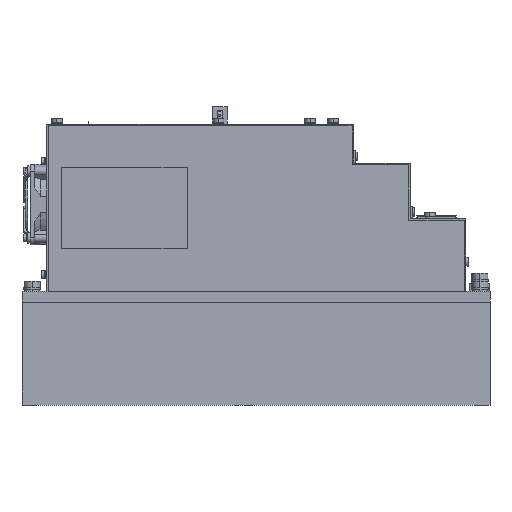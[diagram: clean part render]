
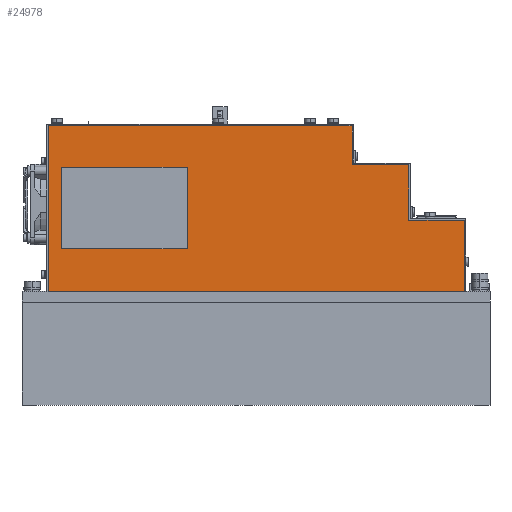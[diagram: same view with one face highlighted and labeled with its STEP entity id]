
A CAD part, left-side view. The second image highlights one B-rep face of the part: STEP entity #24978.
In plain terms, the highlighted planar face has unit normal (-1, 0, 0).
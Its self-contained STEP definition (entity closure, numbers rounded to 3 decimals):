
#24927 = ORIENTED_EDGE ( 'NONE', *, *, #25026, .F. ) ;
#24928 = EDGE_LOOP ( 'NONE', ( #24931, #24937, #24943, #24948, #24953, #25055, #25060, #25066 ) ) ;
#24931 = ORIENTED_EDGE ( 'NONE', *, *, #24933, .F. ) ;
#24933 = EDGE_CURVE ( 'NONE', #24935, #24936, #78304, .T. ) ;
#24935 = VERTEX_POINT ( 'NONE', #78300 ) ;
#24936 = VERTEX_POINT ( 'NONE', #78299 ) ;
#24937 = ORIENTED_EDGE ( 'NONE', *, *, #24939, .F. ) ;
#24939 = EDGE_CURVE ( 'NONE', #24941, #24935, #78298, .T. ) ;
#24941 = VERTEX_POINT ( 'NONE', #78294 ) ;
#24943 = ORIENTED_EDGE ( 'NONE', *, *, #24946, .F. ) ;
#24946 = EDGE_CURVE ( 'NONE', #24947, #24941, #78293, .T. ) ;
#24947 = VERTEX_POINT ( 'NONE', #78289 ) ;
#24948 = ORIENTED_EDGE ( 'NONE', *, *, #24950, .T. ) ;
#24950 = EDGE_CURVE ( 'NONE', #24947, #24951, #78288, .T. ) ;
#24951 = VERTEX_POINT ( 'NONE', #78347 ) ;
#24953 = ORIENTED_EDGE ( 'NONE', *, *, #25053, .T. ) ;
#24978 = ADVANCED_FACE ( 'NONE', ( #78324, #78323 ), #78322, .F. ) ;
#25026 = EDGE_CURVE ( 'NONE', #25029, #25075, #78405, .T. ) ;
#25029 = VERTEX_POINT ( 'NONE', #78401 ) ;
#25030 = ORIENTED_EDGE ( 'NONE', *, *, #25031, .F. ) ;
#25031 = EDGE_CURVE ( 'NONE', #25032, #25029, #78400, .T. ) ;
#25032 = VERTEX_POINT ( 'NONE', #78396 ) ;
#25034 = ORIENTED_EDGE ( 'NONE', *, *, #25035, .F. ) ;
#25035 = EDGE_CURVE ( 'NONE', #25076, #25032, #78395, .T. ) ;
#25053 = EDGE_CURVE ( 'NONE', #24951, #25054, #78435, .T. ) ;
#25054 = VERTEX_POINT ( 'NONE', #78431 ) ;
#25055 = ORIENTED_EDGE ( 'NONE', *, *, #25056, .T. ) ;
#25056 = EDGE_CURVE ( 'NONE', #25054, #25058, #78430, .T. ) ;
#25058 = VERTEX_POINT ( 'NONE', #78426 ) ;
#25060 = ORIENTED_EDGE ( 'NONE', *, *, #25063, .T. ) ;
#25063 = EDGE_CURVE ( 'NONE', #25058, #25065, #78425, .T. ) ;
#25065 = VERTEX_POINT ( 'NONE', #78421 ) ;
#25066 = ORIENTED_EDGE ( 'NONE', *, *, #25067, .T. ) ;
#25067 = EDGE_CURVE ( 'NONE', #25065, #24936, #78420, .T. ) ;
#25069 = EDGE_LOOP ( 'NONE', ( #25071, #24927, #25030, #25034 ) ) ;
#25071 = ORIENTED_EDGE ( 'NONE', *, *, #25073, .F. ) ;
#25073 = EDGE_CURVE ( 'NONE', #25075, #25076, #78416, .T. ) ;
#25075 = VERTEX_POINT ( 'NONE', #78475 ) ;
#25076 = VERTEX_POINT ( 'NONE', #78474 ) ;
#78287 = CARTESIAN_POINT ( 'NONE',  ( -25., -323.5, 85. ) ) ;
#78288 = LINE ( 'NONE', #78287, #78349 ) ;
#78289 = CARTESIAN_POINT ( 'NONE',  ( -25., -323.5, 85.2 ) ) ;
#78290 = DIRECTION ( 'NONE',  ( 0., 1., 0. ) ) ;
#78291 = VECTOR ( 'NONE', #78290, 1000. ) ;
#78292 = CARTESIAN_POINT ( 'NONE',  ( -25., -324.5, 85.2 ) ) ;
#78293 = LINE ( 'NONE', #78292, #78291 ) ;
#78294 = CARTESIAN_POINT ( 'NONE',  ( -25., -12.1, 85.2 ) ) ;
#78295 = DIRECTION ( 'NONE',  ( 0., 0., 1. ) ) ;
#78296 = VECTOR ( 'NONE', #78295, 1000. ) ;
#78297 = CARTESIAN_POINT ( 'NONE',  ( -25., -12.1, 208.8 ) ) ;
#78298 = LINE ( 'NONE', #78297, #78296 ) ;
#78299 = CARTESIAN_POINT ( 'NONE',  ( -25., -239.3, 208.8 ) ) ;
#78300 = CARTESIAN_POINT ( 'NONE',  ( -25., -12.1, 208.8 ) ) ;
#78301 = DIRECTION ( 'NONE',  ( 0., -1., 0. ) ) ;
#78302 = VECTOR ( 'NONE', #78301, 1000. ) ;
#78303 = CARTESIAN_POINT ( 'NONE',  ( -25., -10.5, 208.8 ) ) ;
#78304 = LINE ( 'NONE', #78303, #78302 ) ;
#78318 = DIRECTION ( 'NONE',  ( 0., 1., 0. ) ) ;
#78319 = DIRECTION ( 'NONE',  ( 1., 0., 0. ) ) ;
#78320 = CARTESIAN_POINT ( 'NONE',  ( -25., -10.5, 583.225 ) ) ;
#78321 = AXIS2_PLACEMENT_3D ( 'NONE', #78320, #78319, #78318 ) ;
#78322 = PLANE ( 'NONE',  #78321 ) ;
#78323 = FACE_BOUND ( 'NONE', #25069, .T. ) ;
#78324 = FACE_OUTER_BOUND ( 'NONE', #24928, .T. ) ;
#78347 = CARTESIAN_POINT ( 'NONE',  ( -25., -323.5, 138.1 ) ) ;
#78348 = DIRECTION ( 'NONE',  ( 0., 0., 1. ) ) ;
#78349 = VECTOR ( 'NONE', #78348, 1000. ) ;
#78392 = DIRECTION ( 'NONE',  ( 0., 0., 1. ) ) ;
#78393 = VECTOR ( 'NONE', #78392, 1000. ) ;
#78394 = CARTESIAN_POINT ( 'NONE',  ( -25., -116., 117. ) ) ;
#78395 = LINE ( 'NONE', #78394, #78393 ) ;
#78396 = CARTESIAN_POINT ( 'NONE',  ( -25., -116., 178. ) ) ;
#78397 = DIRECTION ( 'NONE',  ( 0., 1., 0. ) ) ;
#78398 = VECTOR ( 'NONE', #78397, 1000. ) ;
#78399 = CARTESIAN_POINT ( 'NONE',  ( -25., -22., 178. ) ) ;
#78400 = LINE ( 'NONE', #78399, #78398 ) ;
#78401 = CARTESIAN_POINT ( 'NONE',  ( -25., -22., 178. ) ) ;
#78402 = DIRECTION ( 'NONE',  ( 0., 0., -1. ) ) ;
#78403 = VECTOR ( 'NONE', #78402, 1000. ) ;
#78404 = CARTESIAN_POINT ( 'NONE',  ( -25., -22., 117. ) ) ;
#78405 = LINE ( 'NONE', #78404, #78403 ) ;
#78415 = CARTESIAN_POINT ( 'NONE',  ( -25., -22., 117. ) ) ;
#78416 = LINE ( 'NONE', #78415, #78477 ) ;
#78417 = DIRECTION ( 'NONE',  ( 0., 0., 1. ) ) ;
#78418 = VECTOR ( 'NONE', #78417, 1000. ) ;
#78419 = CARTESIAN_POINT ( 'NONE',  ( -25., -239.3, 179.8 ) ) ;
#78420 = LINE ( 'NONE', #78419, #78418 ) ;
#78421 = CARTESIAN_POINT ( 'NONE',  ( -25., -239.3, 179.8 ) ) ;
#78422 = DIRECTION ( 'NONE',  ( 0., 1., 0. ) ) ;
#78423 = VECTOR ( 'NONE', #78422, 1000. ) ;
#78424 = CARTESIAN_POINT ( 'NONE',  ( -25., -281.7, 179.8 ) ) ;
#78425 = LINE ( 'NONE', #78424, #78423 ) ;
#78426 = CARTESIAN_POINT ( 'NONE',  ( -25., -281.7, 179.8 ) ) ;
#78427 = DIRECTION ( 'NONE',  ( 0., 0., 1. ) ) ;
#78428 = VECTOR ( 'NONE', #78427, 1000. ) ;
#78429 = CARTESIAN_POINT ( 'NONE',  ( -25., -281.7, 138.1 ) ) ;
#78430 = LINE ( 'NONE', #78429, #78428 ) ;
#78431 = CARTESIAN_POINT ( 'NONE',  ( -25., -281.7, 138.1 ) ) ;
#78432 = DIRECTION ( 'NONE',  ( 0., 1., 0. ) ) ;
#78433 = VECTOR ( 'NONE', #78432, 1000. ) ;
#78434 = CARTESIAN_POINT ( 'NONE',  ( -25., -324.5, 138.1 ) ) ;
#78435 = LINE ( 'NONE', #78434, #78433 ) ;
#78474 = CARTESIAN_POINT ( 'NONE',  ( -25., -116., 117. ) ) ;
#78475 = CARTESIAN_POINT ( 'NONE',  ( -25., -22., 117. ) ) ;
#78476 = DIRECTION ( 'NONE',  ( 0., -1., 0. ) ) ;
#78477 = VECTOR ( 'NONE', #78476, 1000. ) ;
